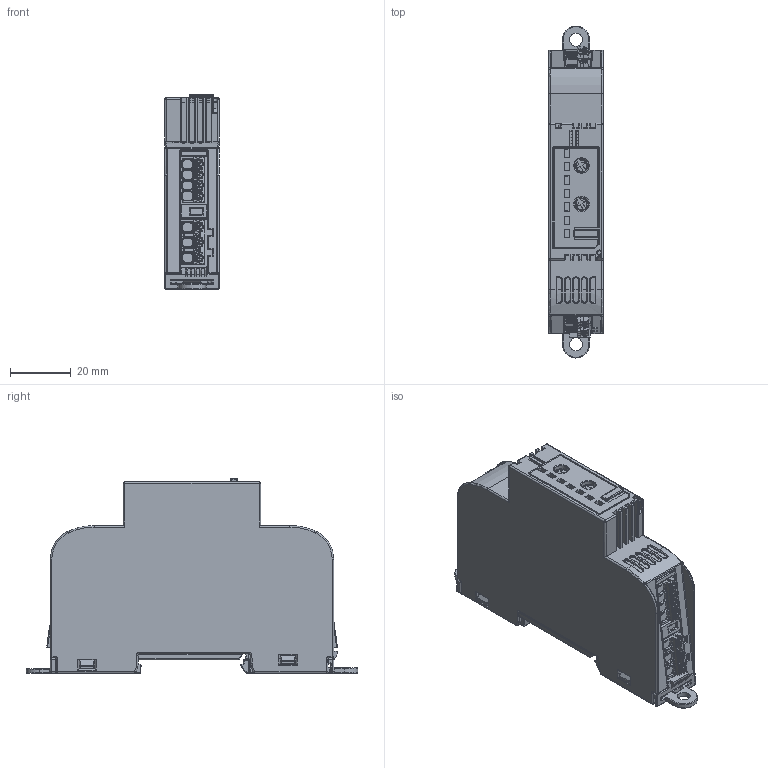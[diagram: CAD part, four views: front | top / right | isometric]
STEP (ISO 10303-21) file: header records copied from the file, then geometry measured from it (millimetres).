
FILE_DESCRIPTION (( 'STEP AP214' ), '1' );
FILE_NAME ('iso415R-xx.STEP', '2021-10-21T14:30:23', ( '' ), ( '' ), 'SwSTEP 2.0', 'SolidWorks 2021', '' );
FILE_SCHEMA (( 'AUTOMOTIVE_DESIGN' ));
Length unit declared in the file: millimetre
Products named in the file (1): iso415R-xx
Bounding box: 18 x 109 x 63.9 mm (x, y, z)
Surface area: 21600.6 mm2
Topology: 4 solids, 5 shells, 4194 faces, 10893 edges, 6545 vertices
Faces by surface type: cylinder 1456, plane 1338, bspline 794, torus 393, sphere 187, cone 26
Entity records: 197288 total; most frequent: CARTESIAN_POINT 95671, ORIENTED_EDGE 21436, DIRECTION 18038, EDGE_CURVE 10718, VERTEX_POINT 6532, AXIS2_PLACEMENT_3D 6452, LINE 5134, VECTOR 5134
